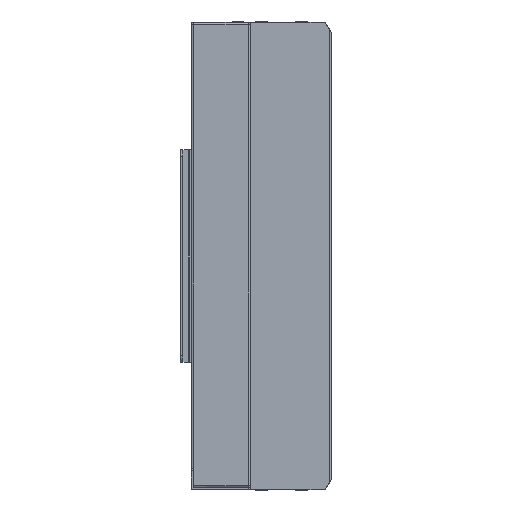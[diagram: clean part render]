
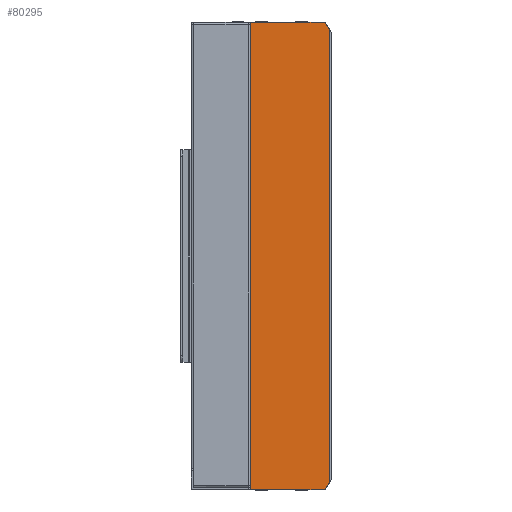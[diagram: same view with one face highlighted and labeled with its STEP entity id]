
A CAD part, left-side view. The second image highlights one B-rep face of the part: STEP entity #80295.
In plain terms, the highlighted planar face has unit normal (-1, 0, 0).
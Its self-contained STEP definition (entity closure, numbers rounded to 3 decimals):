
#1052 = VECTOR ( 'NONE', #69482, 1000. ) ;
#1608 = DIRECTION ( 'NONE',  ( 0., -0.514, 0.857 ) ) ;
#3231 = LINE ( 'NONE', #48167, #1052 ) ;
#5014 = CARTESIAN_POINT ( 'NONE',  ( -113., 3., -110. ) ) ;
#5083 = VERTEX_POINT ( 'NONE', #5014 ) ;
#8012 = EDGE_CURVE ( 'NONE', #58845, #55162, #63406, .T. ) ;
#8612 = DIRECTION ( 'NONE',  ( 0., 0., 1. ) ) ;
#9495 = CARTESIAN_POINT ( 'NONE',  ( -113., 38., 0. ) ) ;
#23140 = CARTESIAN_POINT ( 'NONE',  ( -113., 38., -110. ) ) ;
#23594 = DIRECTION ( 'NONE',  ( 0., 0., 1. ) ) ;
#25701 = VERTEX_POINT ( 'NONE', #65779 ) ;
#26242 = LINE ( 'NONE', #83390, #62808 ) ;
#30284 = EDGE_LOOP ( 'NONE', ( #57549, #40706, #54133, #59015, #46443, #41779 ) ) ;
#33344 = VECTOR ( 'NONE', #23594, 1000. ) ;
#34870 = VERTEX_POINT ( 'NONE', #46710 ) ;
#40706 = ORIENTED_EDGE ( 'NONE', *, *, #44167, .T. ) ;
#41779 = ORIENTED_EDGE ( 'NONE', *, *, #59277, .F. ) ;
#42935 = LINE ( 'NONE', #64283, #83909 ) ;
#43149 = DIRECTION ( 'NONE',  ( 0., 0.514, 0.857 ) ) ;
#43711 = CARTESIAN_POINT ( 'NONE',  ( -113., 3., 110. ) ) ;
#44167 = EDGE_CURVE ( 'NONE', #5083, #25701, #26242, .T. ) ;
#45684 = EDGE_CURVE ( 'NONE', #52459, #5083, #3231, .T. ) ;
#45736 = CARTESIAN_POINT ( 'NONE',  ( -113., 0., -110. ) ) ;
#45750 = LINE ( 'NONE', #75979, #69425 ) ;
#46443 = ORIENTED_EDGE ( 'NONE', *, *, #67084, .F. ) ;
#46710 = CARTESIAN_POINT ( 'NONE',  ( -113., 38., 110. ) ) ;
#48167 = CARTESIAN_POINT ( 'NONE',  ( -113., 0., -110. ) ) ;
#51316 = DIRECTION ( 'NONE',  ( 0., -1., 0. ) ) ;
#52459 = VERTEX_POINT ( 'NONE', #23140 ) ;
#54133 = ORIENTED_EDGE ( 'NONE', *, *, #85752, .T. ) ;
#55162 = VERTEX_POINT ( 'NONE', #43711 ) ;
#55266 = AXIS2_PLACEMENT_3D ( 'NONE', #45736, #80621, #67095 ) ;
#57549 = ORIENTED_EDGE ( 'NONE', *, *, #45684, .T. ) ;
#58845 = VERTEX_POINT ( 'NONE', #73397 ) ;
#59015 = ORIENTED_EDGE ( 'NONE', *, *, #8012, .T. ) ;
#59277 = EDGE_CURVE ( 'NONE', #52459, #34870, #73047, .T. ) ;
#62808 = VECTOR ( 'NONE', #1608, 1000. ) ;
#63406 = LINE ( 'NONE', #78354, #88153 ) ;
#64283 = CARTESIAN_POINT ( 'NONE',  ( -113., 1., -110. ) ) ;
#65779 = CARTESIAN_POINT ( 'NONE',  ( -113., 1., -106.667 ) ) ;
#66005 = FACE_OUTER_BOUND ( 'NONE', #30284, .T. ) ;
#67084 = EDGE_CURVE ( 'NONE', #34870, #55162, #45750, .T. ) ;
#67095 = DIRECTION ( 'NONE',  ( 0., 0., 1. ) ) ;
#69425 = VECTOR ( 'NONE', #51316, 1000. ) ;
#69482 = DIRECTION ( 'NONE',  ( 0., -1., 0. ) ) ;
#73047 = LINE ( 'NONE', #9495, #33344 ) ;
#73397 = CARTESIAN_POINT ( 'NONE',  ( -113., 1., 106.667 ) ) ;
#75979 = CARTESIAN_POINT ( 'NONE',  ( -113., 0., 110. ) ) ;
#78354 = CARTESIAN_POINT ( 'NONE',  ( -113., 1., 106.667 ) ) ;
#80295 = ADVANCED_FACE ( 'NONE', ( #66005 ), #86927, .T. ) ;
#80621 = DIRECTION ( 'NONE',  ( -1., 0., 0. ) ) ;
#83390 = CARTESIAN_POINT ( 'NONE',  ( -113., 3., -110. ) ) ;
#83909 = VECTOR ( 'NONE', #8612, 1000. ) ;
#85752 = EDGE_CURVE ( 'NONE', #25701, #58845, #42935, .T. ) ;
#86927 = PLANE ( 'NONE',  #55266 ) ;
#88153 = VECTOR ( 'NONE', #43149, 1000. ) ;
